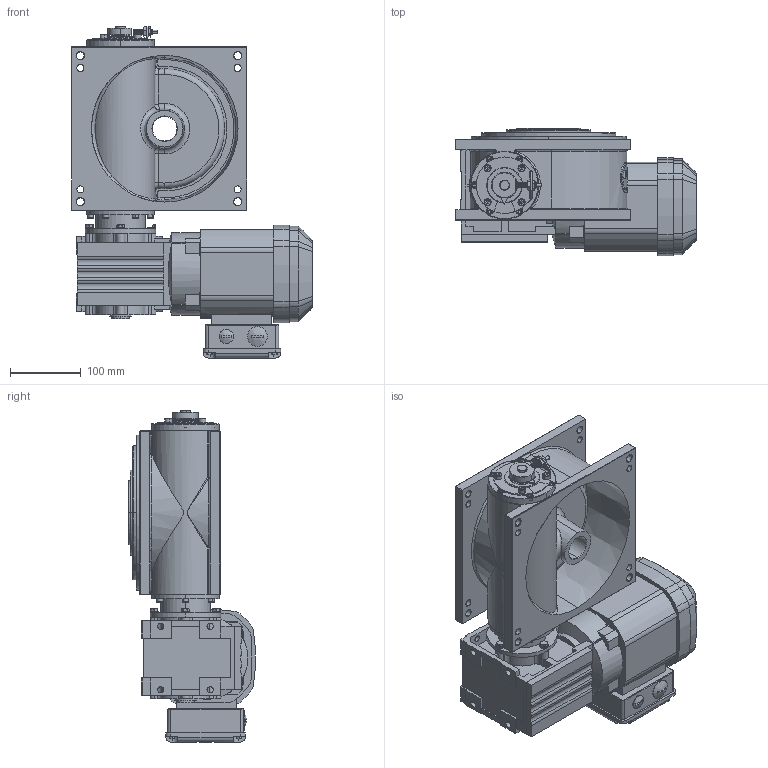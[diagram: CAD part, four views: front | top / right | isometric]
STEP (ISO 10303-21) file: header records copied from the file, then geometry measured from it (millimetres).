
FILE_DESCRIPTION (( 'STEP AP214' ), '1' );
FILE_NAME ('M190_SEW_WA30DRS71S4_E1.STEP', '2021-01-25T15:15:14', ( '' ), ( '' ), 'SwSTEP 2.0', 'SolidWorks 2020', '' );
FILE_SCHEMA (( 'AUTOMOTIVE_DESIGN' ));
Length unit declared in the file: millimetre
Products named in the file (1): M190_SEW_WA30DRS71S4_E1
Bounding box: 341.5 x 179.74 x 470.55 mm (x, y, z)
Surface area: 627567.4 mm2 (no closed solid volume)
Topology: 0 solids, 55 shells, 1249 faces, 3782 edges, 2494 vertices
Faces by surface type: plane 509, cylinder 422, cone 150, bspline 93, torus 63, sphere 12
Entity records: 65321 total; most frequent: CARTESIAN_POINT 18400, DIRECTION 6918, ORIENTED_EDGE 6527, EDGE_CURVE 3752, VERTEX_POINT 2494, AXIS2_PLACEMENT_3D 2477, VECTOR 1964, LINE 1964
